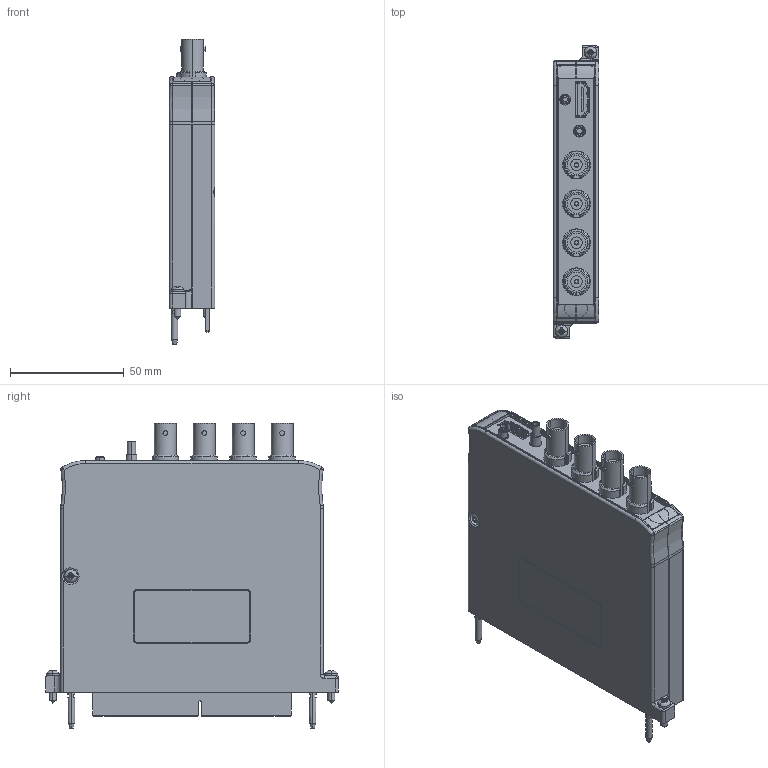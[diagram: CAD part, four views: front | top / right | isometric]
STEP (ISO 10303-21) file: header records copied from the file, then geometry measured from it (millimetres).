
FILE_DESCRIPTION((''),'2;1');
FILE_NAME('CU_NI-5734','2010-11-30T',('jjorden'),(''),'PRO/ENGINEER BY PARAMETRIC TECHNOLOGY CORPORATION, 2006510','PRO/ENGINEER BY PARAMETRIC TECHNOLOGY CORPORATION, 2006510','');
FILE_SCHEMA(('CONFIG_CONTROL_DESIGN'));
Length unit declared in the file: inch
Products named in the file (1): CU_NI-5734
Bounding box: 20.02 x 128.65 x 134.05 mm (x, y, z)
Volume: 60678.1 mm3; surface area: 96035.5 mm2
Topology: 2 solids, 3 shells, 1704 faces, 4423 edges, 2734 vertices
Faces by surface type: plane 905, cylinder 469, cone 144, bspline 106, torus 40, sphere 40
Entity records: 58148 total; most frequent: CARTESIAN_POINT 16566, ORIENTED_EDGE 8758, DIRECTION 8522, EDGE_CURVE 4379, AXIS2_PLACEMENT_3D 2980, VERTEX_POINT 2886, VECTOR 2562, LINE 2562
